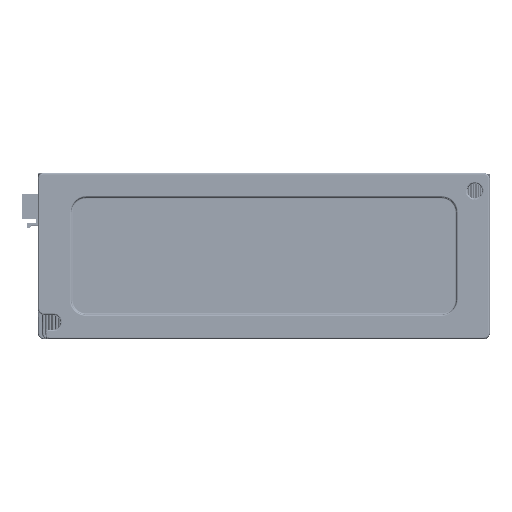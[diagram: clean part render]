
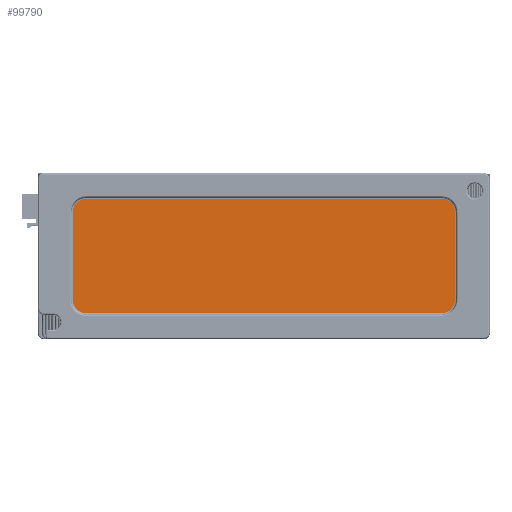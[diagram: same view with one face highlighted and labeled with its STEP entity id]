
A CAD part, top view. The second image highlights one B-rep face of the part: STEP entity #99790.
In plain terms, the highlighted planar face has unit normal (0, 0, 1).
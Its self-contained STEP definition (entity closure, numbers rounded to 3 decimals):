
#70718=DIRECTION('',(-1.,0.,0.));
#70719=VECTOR('',#70718,118.);
#70720=CARTESIAN_POINT('',(59.,8.5,-1.5));
#70721=LINE('',#70720,#70719);
#70722=CARTESIAN_POINT('',(-59.,13.,-1.5));
#70723=DIRECTION('',(0.,0.,-1.));
#70724=DIRECTION('',(0.,-1.,0.));
#70725=AXIS2_PLACEMENT_3D('',#70722,#70723,#70724);
#70727=DIRECTION('',(0.,1.,0.));
#70728=VECTOR('',#70727,29.);
#70729=CARTESIAN_POINT('',(-63.5,13.,-1.5));
#70730=LINE('',#70729,#70728);
#70731=CARTESIAN_POINT('',(-59.,42.,-1.5));
#70732=DIRECTION('',(0.,0.,-1.));
#70733=DIRECTION('',(-1.,0.,0.));
#70734=AXIS2_PLACEMENT_3D('',#70731,#70732,#70733);
#70736=DIRECTION('',(1.,0.,0.));
#70737=VECTOR('',#70736,118.);
#70738=CARTESIAN_POINT('',(-59.,46.5,-1.5));
#70739=LINE('',#70738,#70737);
#70740=CARTESIAN_POINT('',(59.,42.,-1.5));
#70741=DIRECTION('',(0.,0.,-1.));
#70742=DIRECTION('',(0.,1.,0.));
#70743=AXIS2_PLACEMENT_3D('',#70740,#70741,#70742);
#70745=DIRECTION('',(0.,-1.,0.));
#70746=VECTOR('',#70745,29.);
#70747=CARTESIAN_POINT('',(63.5,42.,-1.5));
#70748=LINE('',#70747,#70746);
#70749=CARTESIAN_POINT('',(59.,13.,-1.5));
#70750=DIRECTION('',(0.,0.,-1.));
#70751=DIRECTION('',(1.,0.,0.));
#70752=AXIS2_PLACEMENT_3D('',#70749,#70750,#70751);
#73329=CARTESIAN_POINT('',(59.,8.5,-1.5));
#73330=CARTESIAN_POINT('',(-59.,8.5,-1.5));
#73331=VERTEX_POINT('',#73329);
#73332=VERTEX_POINT('',#73330);
#73337=CARTESIAN_POINT('',(-63.5,13.,-1.5));
#73338=VERTEX_POINT('',#73337);
#73341=CARTESIAN_POINT('',(-63.5,42.,-1.5));
#73342=VERTEX_POINT('',#73341);
#73345=CARTESIAN_POINT('',(-59.,46.5,-1.5));
#73346=VERTEX_POINT('',#73345);
#73349=CARTESIAN_POINT('',(59.,46.5,-1.5));
#73350=VERTEX_POINT('',#73349);
#73353=CARTESIAN_POINT('',(63.5,42.,-1.5));
#73354=VERTEX_POINT('',#73353);
#73357=CARTESIAN_POINT('',(63.5,13.,-1.5));
#73358=VERTEX_POINT('',#73357);
#99768=CARTESIAN_POINT('',(0.,0.,-1.5));
#99769=DIRECTION('',(0.,0.,1.));
#99770=DIRECTION('',(1.,0.,0.));
#99771=AXIS2_PLACEMENT_3D('',#99768,#99769,#99770);
#99772=PLANE('',#99771);
#99774=ORIENTED_EDGE('',*,*,#99773,.T.);
#99776=ORIENTED_EDGE('',*,*,#99775,.T.);
#99778=ORIENTED_EDGE('',*,*,#99777,.T.);
#99780=ORIENTED_EDGE('',*,*,#99779,.T.);
#99782=ORIENTED_EDGE('',*,*,#99781,.T.);
#99784=ORIENTED_EDGE('',*,*,#99783,.T.);
#99786=ORIENTED_EDGE('',*,*,#99785,.T.);
#99787=ORIENTED_EDGE('',*,*,#99758,.T.);
#99788=EDGE_LOOP('',(#99774,#99776,#99778,#99780,#99782,#99784,#99786,#99787));
#99789=FACE_OUTER_BOUND('',#99788,.F.);
#99790=ADVANCED_FACE('',(#99789),#99772,.T.);
#70726=CIRCLE('',#70725,4.5);
#70735=CIRCLE('',#70734,4.5);
#70744=CIRCLE('',#70743,4.5);
#70753=CIRCLE('',#70752,4.5);
#99758=EDGE_CURVE('',#73358,#73331,#70753,.T.);
#99773=EDGE_CURVE('',#73331,#73332,#70721,.T.);
#99775=EDGE_CURVE('',#73332,#73338,#70726,.T.);
#99777=EDGE_CURVE('',#73338,#73342,#70730,.T.);
#99779=EDGE_CURVE('',#73342,#73346,#70735,.T.);
#99781=EDGE_CURVE('',#73346,#73350,#70739,.T.);
#99783=EDGE_CURVE('',#73350,#73354,#70744,.T.);
#99785=EDGE_CURVE('',#73354,#73358,#70748,.T.);
